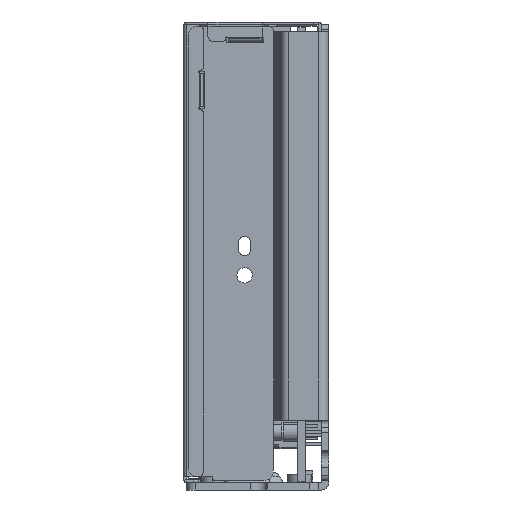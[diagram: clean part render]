
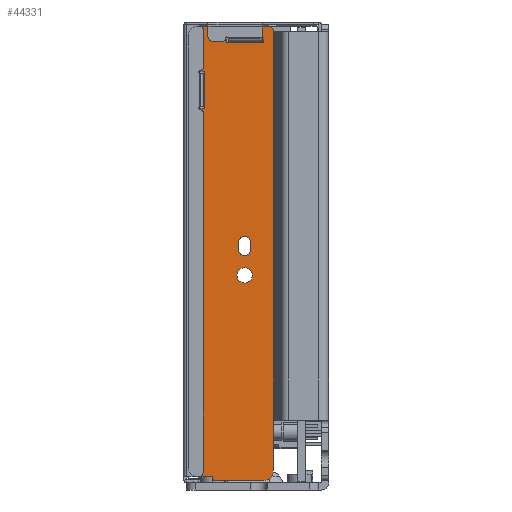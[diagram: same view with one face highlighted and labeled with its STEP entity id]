
A CAD part, left-side view. The second image highlights one B-rep face of the part: STEP entity #44331.
In plain terms, the highlighted planar face has unit normal (-1, 0, 0).
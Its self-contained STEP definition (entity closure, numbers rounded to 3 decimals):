
#21274=CARTESIAN_POINT('',(-72.5,17.4,-3.75));
#21275=DIRECTION('',(-1.,0.,0.));
#21276=DIRECTION('',(0.,0.,-1.));
#21277=AXIS2_PLACEMENT_3D('',#21274,#21275,#21276);
#21282=CARTESIAN_POINT('',(-72.5,17.4,-3.75));
#21283=DIRECTION('',(-1.,0.,0.));
#21284=DIRECTION('',(0.,0.,1.));
#21285=AXIS2_PLACEMENT_3D('',#21282,#21283,#21284);
#21290=DIRECTION('',(0.,0.,1.));
#21291=VECTOR('',#21290,7.8);
#21292=CARTESIAN_POINT('',(-72.5,26.7,30.75));
#21293=LINE('',#21292,#21291);
#21297=DIRECTION('',(0.,1.,0.));
#21298=VECTOR('',#21297,1.);
#21299=CARTESIAN_POINT('',(-72.5,25.7,30.75));
#21300=LINE('',#21299,#21298);
#21304=DIRECTION('',(0.,0.,-1.));
#21305=VECTOR('',#21304,7.8);
#21306=CARTESIAN_POINT('',(-72.5,25.7,38.55));
#21307=LINE('',#21306,#21305);
#21311=DIRECTION('',(0.,-1.,0.));
#21312=VECTOR('',#21311,1.);
#21313=CARTESIAN_POINT('',(-72.5,26.7,38.55));
#21314=LINE('',#21313,#21312);
#21318=DIRECTION('',(0.,0.,1.));
#21319=VECTOR('',#21318,1.);
#21320=CARTESIAN_POINT('',(-72.5,21.2,44.45));
#21321=LINE('',#21320,#21319);
#21325=DIRECTION('',(0.,1.,0.));
#21326=VECTOR('',#21325,7.8);
#21327=CARTESIAN_POINT('',(-72.5,13.4,44.45));
#21328=LINE('',#21327,#21326);
#21332=DIRECTION('',(0.,0.,-1.));
#21333=VECTOR('',#21332,1.);
#21334=CARTESIAN_POINT('',(-72.5,13.4,45.45));
#21335=LINE('',#21334,#21333);
#21339=DIRECTION('',(0.,-1.,0.));
#21340=VECTOR('',#21339,7.8);
#21341=CARTESIAN_POINT('',(-72.5,21.2,45.45));
#21342=LINE('',#21341,#21340);
#21346=DIRECTION('',(0.,0.,1.));
#21347=VECTOR('',#21346,1.5);
#21348=CARTESIAN_POINT('',(-72.5,18.65,1.6));
#21349=LINE('',#21348,#21347);
#21353=CARTESIAN_POINT('',(-72.5,17.4,1.6));
#21354=DIRECTION('',(-1.,0.,0.));
#21355=DIRECTION('',(0.,1.,0.));
#21356=AXIS2_PLACEMENT_3D('',#21353,#21354,#21355);
#21361=DIRECTION('',(0.,0.,-1.));
#21362=VECTOR('',#21361,1.5);
#21363=CARTESIAN_POINT('',(-72.5,16.15,3.1));
#21364=LINE('',#21363,#21362);
#21368=CARTESIAN_POINT('',(-72.5,17.4,3.1));
#21369=DIRECTION('',(-1.,0.,0.));
#21370=DIRECTION('',(0.,-1.,0.));
#21371=AXIS2_PLACEMENT_3D('',#21368,#21369,#21370);
#21376=CARTESIAN_POINT('',(-72.5,23.6,-45.75));
#21377=DIRECTION('',(-1.,0.,0.));
#21378=DIRECTION('',(0.,1.,0.));
#21379=AXIS2_PLACEMENT_3D('',#21376,#21377,#21378);
#21384=DIRECTION('',(0.,0.,1.));
#21385=VECTOR('',#21384,0.2);
#21386=CARTESIAN_POINT('',(-72.5,24.1,-45.75));
#21387=LINE('',#21386,#21385);
#21391=DIRECTION('',(0.,-1.,0.));
#21392=VECTOR('',#21391,3.);
#21393=CARTESIAN_POINT('',(-72.5,27.1,-45.55));
#21394=LINE('',#21393,#21392);
#21398=CARTESIAN_POINT('',(-72.5,27.1,-43.55));
#21399=DIRECTION('',(-1.,0.,0.));
#21400=DIRECTION('',(0.,1.,0.));
#21401=AXIS2_PLACEMENT_3D('',#21398,#21399,#21400);
#21406=CARTESIAN_POINT('',(-72.5,27.1,45.85));
#21407=DIRECTION('',(-1.,0.,0.));
#21408=DIRECTION('',(0.,0.,1.));
#21409=AXIS2_PLACEMENT_3D('',#21406,#21407,#21408);
#21414=DIRECTION('',(0.,1.,0.));
#21415=VECTOR('',#21414,14.686);
#21416=CARTESIAN_POINT('',(-72.5,12.414,47.85));
#21417=LINE('',#21416,#21415);
#21421=CARTESIAN_POINT('',(-72.5,12.414,46.85));
#21422=DIRECTION('',(-1.,0.,0.));
#21423=DIRECTION('',(0.,-1.,0.));
#21424=AXIS2_PLACEMENT_3D('',#21421,#21422,#21423);
#21429=DIRECTION('',(0.,0.,1.));
#21430=VECTOR('',#21429,0.1);
#21431=CARTESIAN_POINT('',(-72.5,11.414,46.75));
#21432=LINE('',#21431,#21430);
#21436=DIRECTION('',(0.,0.,1.));
#21437=VECTOR('',#21436,80.5);
#21438=CARTESIAN_POINT('',(-72.5,11.414,-33.75));
#21439=LINE('',#21438,#21437);
#21443=DIRECTION('',(0.,0.,1.));
#21444=VECTOR('',#21443,10.5);
#21445=CARTESIAN_POINT('',(-72.5,11.414,-44.25));
#21446=LINE('',#21445,#21444);
#21450=CARTESIAN_POINT('',(-72.5,13.414,-44.25));
#21451=DIRECTION('',(-1.,0.,0.));
#21452=DIRECTION('',(0.,0.,-1.));
#21453=AXIS2_PLACEMENT_3D('',#21450,#21451,#21452);
#21922=DIRECTION('',(0.,1.,0.));
#21923=VECTOR('',#21922,10.186);
#21924=CARTESIAN_POINT('',(-72.5,13.414,-46.25));
#21925=LINE('',#21924,#21923);
#21978=DIRECTION('',(0.,0.,-1.));
#21979=VECTOR('',#21978,89.4);
#21980=CARTESIAN_POINT('',(-72.5,29.1,45.85));
#21981=LINE('',#21980,#21979);
#22631=CARTESIAN_POINT('',(-72.5,24.1,-45.55));
#22633=VERTEX_POINT('',#22631);
#25033=CARTESIAN_POINT('',(-72.5,17.4,-5.35));
#25034=CARTESIAN_POINT('',(-72.5,17.4,-2.15));
#25035=VERTEX_POINT('',#25033);
#25036=VERTEX_POINT('',#25034);
#25080=CARTESIAN_POINT('',(-72.5,11.414,-33.75));
#25082=VERTEX_POINT('',#25080);
#25253=CARTESIAN_POINT('',(-72.5,11.414,46.75));
#25254=VERTEX_POINT('',#25253);
#25267=CARTESIAN_POINT('',(-72.5,26.7,30.75));
#25268=CARTESIAN_POINT('',(-72.5,26.7,38.55));
#25269=VERTEX_POINT('',#25267);
#25270=VERTEX_POINT('',#25268);
#25271=CARTESIAN_POINT('',(-72.5,25.7,38.55));
#25272=VERTEX_POINT('',#25271);
#25273=CARTESIAN_POINT('',(-72.5,25.7,30.75));
#25274=VERTEX_POINT('',#25273);
#25275=CARTESIAN_POINT('',(-72.5,21.2,44.45));
#25276=CARTESIAN_POINT('',(-72.5,21.2,45.45));
#25277=VERTEX_POINT('',#25275);
#25278=VERTEX_POINT('',#25276);
#25279=CARTESIAN_POINT('',(-72.5,13.4,45.45));
#25280=VERTEX_POINT('',#25279);
#25281=CARTESIAN_POINT('',(-72.5,13.4,44.45));
#25282=VERTEX_POINT('',#25281);
#25347=CARTESIAN_POINT('',(-72.5,29.1,-43.55));
#25348=CARTESIAN_POINT('',(-72.5,27.1,-45.55));
#25349=VERTEX_POINT('',#25347);
#25350=VERTEX_POINT('',#25348);
#25371=CARTESIAN_POINT('',(-72.5,13.414,-46.25));
#25372=CARTESIAN_POINT('',(-72.5,11.414,-44.25));
#25373=VERTEX_POINT('',#25371);
#25374=VERTEX_POINT('',#25372);
#25451=CARTESIAN_POINT('',(-72.5,18.65,1.6));
#25452=CARTESIAN_POINT('',(-72.5,18.65,3.1));
#25453=VERTEX_POINT('',#25451);
#25454=VERTEX_POINT('',#25452);
#25455=CARTESIAN_POINT('',(-72.5,16.15,3.1));
#25456=VERTEX_POINT('',#25455);
#25457=CARTESIAN_POINT('',(-72.5,16.15,1.6));
#25458=VERTEX_POINT('',#25457);
#25519=CARTESIAN_POINT('',(-72.5,29.1,45.85));
#25520=VERTEX_POINT('',#25519);
#25523=CARTESIAN_POINT('',(-72.5,27.1,47.85));
#25524=VERTEX_POINT('',#25523);
#25527=CARTESIAN_POINT('',(-72.5,11.414,46.85));
#25528=CARTESIAN_POINT('',(-72.5,12.414,47.85));
#25529=VERTEX_POINT('',#25527);
#25530=VERTEX_POINT('',#25528);
#25563=CARTESIAN_POINT('',(-72.5,24.1,-45.75));
#25564=CARTESIAN_POINT('',(-72.5,23.6,-46.25));
#25565=VERTEX_POINT('',#25563);
#25566=VERTEX_POINT('',#25564);
#44265=CARTESIAN_POINT('',(-72.5,11.414,-46.25));
#44266=DIRECTION('',(1.,0.,0.));
#44267=DIRECTION('',(0.,1.,0.));
#44268=AXIS2_PLACEMENT_3D('',#44265,#44266,#44267);
#44269=PLANE('',#44268);
#44271=ORIENTED_EDGE('',*,*,#44270,.F.);
#44273=ORIENTED_EDGE('',*,*,#44272,.T.);
#44275=ORIENTED_EDGE('',*,*,#44274,.F.);
#44277=ORIENTED_EDGE('',*,*,#44276,.F.);
#44279=ORIENTED_EDGE('',*,*,#44278,.F.);
#44281=ORIENTED_EDGE('',*,*,#44280,.F.);
#44283=ORIENTED_EDGE('',*,*,#44282,.F.);
#44285=ORIENTED_EDGE('',*,*,#44284,.F.);
#44287=ORIENTED_EDGE('',*,*,#44286,.F.);
#44288=ORIENTED_EDGE('',*,*,#44215,.F.);
#44289=ORIENTED_EDGE('',*,*,#44242,.F.);
#44290=ORIENTED_EDGE('',*,*,#44255,.F.);
#44292=ORIENTED_EDGE('',*,*,#44291,.T.);
#44293=EDGE_LOOP('',(#44271,#44273,#44275,#44277,#44279,#44281,#44283,#44285,
#44287,#44288,#44289,#44290,#44292));
#44294=FACE_OUTER_BOUND('',#44293,.F.);
#44296=ORIENTED_EDGE('',*,*,#44295,.F.);
#44298=ORIENTED_EDGE('',*,*,#44297,.F.);
#44300=ORIENTED_EDGE('',*,*,#44299,.F.);
#44302=ORIENTED_EDGE('',*,*,#44301,.F.);
#44303=EDGE_LOOP('',(#44296,#44298,#44300,#44302));
#44304=FACE_BOUND('',#44303,.F.);
#44306=ORIENTED_EDGE('',*,*,#44305,.F.);
#44308=ORIENTED_EDGE('',*,*,#44307,.F.);
#44310=ORIENTED_EDGE('',*,*,#44309,.F.);
#44312=ORIENTED_EDGE('',*,*,#44311,.F.);
#44313=EDGE_LOOP('',(#44306,#44308,#44310,#44312));
#44314=FACE_BOUND('',#44313,.F.);
#44316=ORIENTED_EDGE('',*,*,#44315,.F.);
#44318=ORIENTED_EDGE('',*,*,#44317,.T.);
#44320=ORIENTED_EDGE('',*,*,#44319,.F.);
#44322=ORIENTED_EDGE('',*,*,#44321,.T.);
#44323=EDGE_LOOP('',(#44316,#44318,#44320,#44322));
#44324=FACE_BOUND('',#44323,.F.);
#44326=ORIENTED_EDGE('',*,*,#44325,.T.);
#44328=ORIENTED_EDGE('',*,*,#44327,.T.);
#44329=EDGE_LOOP('',(#44326,#44328));
#44330=FACE_BOUND('',#44329,.F.);
#21278=CIRCLE('',#21277,1.6);
#21286=CIRCLE('',#21285,1.6);
#21357=CIRCLE('',#21356,1.25);
#21372=CIRCLE('',#21371,1.25);
#21380=CIRCLE('',#21379,0.5);
#21402=CIRCLE('',#21401,2.);
#21410=CIRCLE('',#21409,2.);
#21425=CIRCLE('',#21424,1.);
#21454=CIRCLE('',#21453,2.);
#44215=EDGE_CURVE('',#25082,#25254,#21439,.T.);
#44242=EDGE_CURVE('',#25374,#25082,#21446,.T.);
#44255=EDGE_CURVE('',#25373,#25374,#21454,.T.);
#44270=EDGE_CURVE('',#25565,#25566,#21380,.T.);
#44272=EDGE_CURVE('',#25565,#22633,#21387,.T.);
#44274=EDGE_CURVE('',#25350,#22633,#21394,.T.);
#44276=EDGE_CURVE('',#25349,#25350,#21402,.T.);
#44278=EDGE_CURVE('',#25520,#25349,#21981,.T.);
#44280=EDGE_CURVE('',#25524,#25520,#21410,.T.);
#44282=EDGE_CURVE('',#25530,#25524,#21417,.T.);
#44284=EDGE_CURVE('',#25529,#25530,#21425,.T.);
#44286=EDGE_CURVE('',#25254,#25529,#21432,.T.);
#44291=EDGE_CURVE('',#25373,#25566,#21925,.T.);
#44295=EDGE_CURVE('',#25269,#25270,#21293,.T.);
#44297=EDGE_CURVE('',#25274,#25269,#21300,.T.);
#44299=EDGE_CURVE('',#25272,#25274,#21307,.T.);
#44301=EDGE_CURVE('',#25270,#25272,#21314,.T.);
#44305=EDGE_CURVE('',#25277,#25278,#21321,.T.);
#44307=EDGE_CURVE('',#25282,#25277,#21328,.T.);
#44309=EDGE_CURVE('',#25280,#25282,#21335,.T.);
#44311=EDGE_CURVE('',#25278,#25280,#21342,.T.);
#44315=EDGE_CURVE('',#25453,#25454,#21349,.T.);
#44317=EDGE_CURVE('',#25453,#25458,#21357,.T.);
#44319=EDGE_CURVE('',#25456,#25458,#21364,.T.);
#44321=EDGE_CURVE('',#25456,#25454,#21372,.T.);
#44325=EDGE_CURVE('',#25035,#25036,#21278,.T.);
#44327=EDGE_CURVE('',#25036,#25035,#21286,.T.);
#44331=ADVANCED_FACE('',(#44294,#44304,#44314,#44324,#44330),#44269,.F.);
